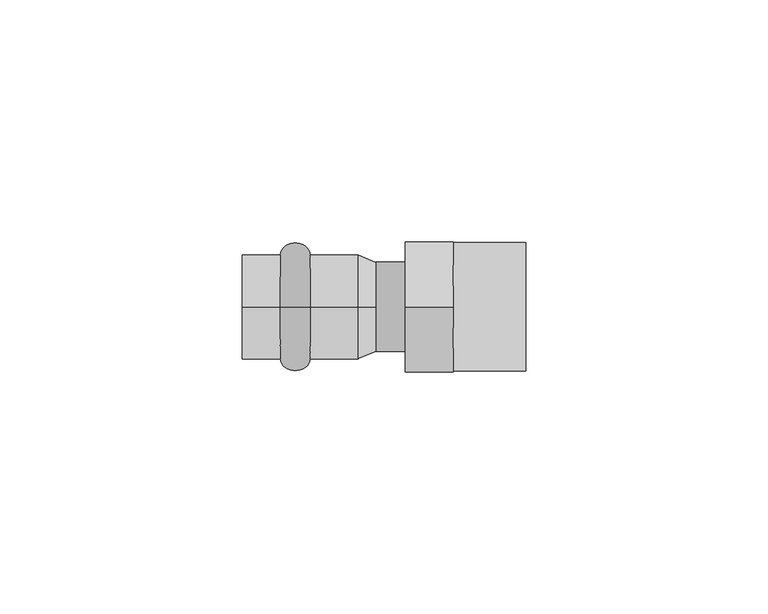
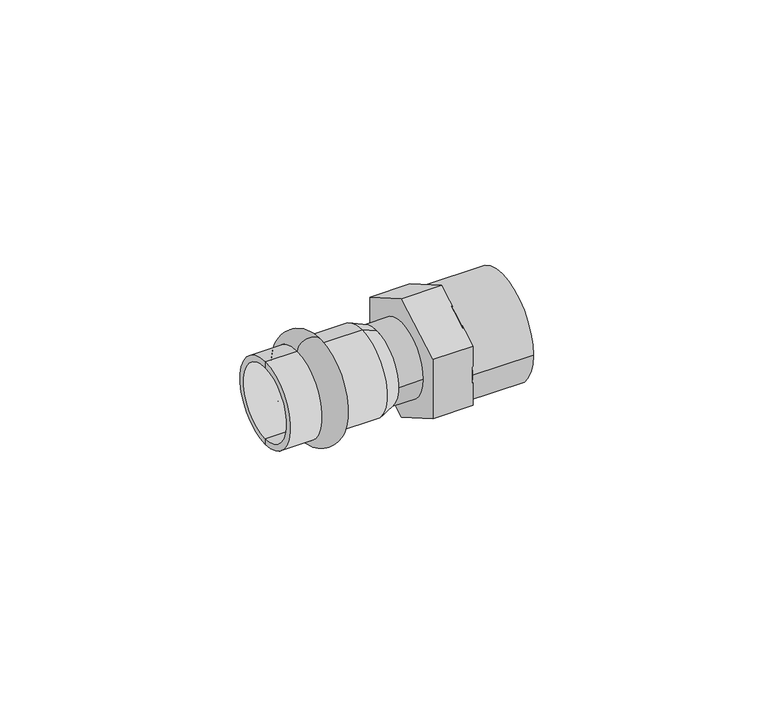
"""IFC4 building model written with IfcOpenShell, lengths in millimetres: pipe fitting geometry."""

from ifc_helpers import new_model, si_unit, point, frame, origin, origin_2d, place, context, project, spatial, polyline, circle_curve, ellipse_curve, trimmed, segment, composite_curve, outline, extrude, source, transform, mapped, element, save
from ifc_brep_helpers import plane_surface, cylinder_surface, revolved_surface, advanced_brep


def pipe_fitting_61d1deae(model_context):
    return source(origin(), model_context, "Body", "SolidModel", [
        advanced_brep(
        [(-16.1, 0.0, 10.75), (-16.1, 0.0, -10.75), (-10.0, 0.0, -10.75), (-10.0, 0.0, 10.75)],
        [
            (0, 1, circle_curve(frame((-16.1, 0.0, 0.0), z_axis=(-1.0, 0.0, 0.0), x_axis=(0.0, 0.0, -1.0)), 10.75)),
            (1, 2),
            (2, 3, circle_curve(frame((-10.0, 0.0, 0.0), z_axis=(1.0, 0.0, 0.0), x_axis=(0.0, 0.0, -1.0)), 10.75)),
            (3, 0),
            (1, 0, circle_curve(frame((-16.1, 0.0, 0.0), z_axis=(-1.0, 0.0, 0.0), x_axis=(0.0, 0.0, -1.0)), 10.75)),
            (3, 2, circle_curve(frame((-10.0, 0.0, 0.0), z_axis=(1.0, 0.0, 0.0), x_axis=(0.0, 0.0, -1.0)), 10.75)),
            (2, 1, ellipse_curve(frame((-13.05, 0.0, -10.75), z_axis=(0.0, 1.0, 0.0), x_axis=(-1.0, 0.0, 0.0)), 3.05, 2.5)),
            (0, 3, ellipse_curve(frame((-13.05, 0.0, 10.75), z_axis=(0.0, 1.0, 0.0), x_axis=(-1.0, 0.0, 0.0)), 3.05, 2.5)),
        ],
        [
            revolved_surface(polyline([(-10.0, 0.0, -10.75), (-16.1, 0.0, -10.75)]), (3.0, 0.0, 0.0), (1.0, 0.0, 0.0)),
            revolved_surface(trimmed(ellipse_curve(frame((-13.05, 0.0, -10.75), z_axis=(0.0, -1.0, 0.0), x_axis=(-1.0, 0.0, 0.0)), 3.05, 2.5), [point((-16.1, 0.0, -10.75))], [point((-10.0, 0.0, -10.75))], True, "CARTESIAN"), (3.0, 0.0, 0.0), (1.0, 0.0, 0.0)),
        ],
        [
            (0, [[1, 2, 3, 4]]),
            (0, [[5, -4, 6, -2]]),
            (1, [[-3, 7, -1, 8]]),
            (1, [[-6, -8, -5, -7]]),
        ],
    ),
        advanced_brep(
        [(3.5337785, 0.0, 9.25), (3.5337785, 0.0, -9.25), (0.0, 0.0, -10.75), (0.0, 0.0, 10.75), (-24.0, 0.0, 9.25), (-24.0, 0.0, -9.25), (-24.0, 0.0, 10.75), (-24.0, 0.0, -10.75)],
        [
            (0, 1, circle_curve(frame((3.5337785, 0.0, 0.0), z_axis=(-1.0, 0.0, 0.0), x_axis=(0.0, 0.0, -1.0)), 9.25)),
            (1, 2),
            (2, 3, circle_curve(frame((0.0, 0.0, 0.0), z_axis=(1.0, 0.0, 0.0), x_axis=(0.0, 0.0, -1.0)), 10.75)),
            (3, 0),
            (1, 0, circle_curve(frame((3.5337785, 0.0, 0.0), z_axis=(-1.0, 0.0, 0.0), x_axis=(0.0, 0.0, -1.0)), 9.25)),
            (3, 2, circle_curve(frame((0.0, 0.0, 0.0), z_axis=(1.0, 0.0, 0.0), x_axis=(0.0, 0.0, -1.0)), 10.75)),
            (4, 5, circle_curve(frame((-24.0, 0.0, 0.0), z_axis=(-1.0, 0.0, 0.0), x_axis=(0.0, 0.0, -1.0)), 9.25)),
            (5, 1),
            (0, 4),
            (5, 4, circle_curve(frame((-24.0, 0.0, 0.0), z_axis=(-1.0, 0.0, 0.0), x_axis=(0.0, 0.0, -1.0)), 9.25)),
            (6, 7, circle_curve(frame((-24.0, 0.0, 0.0), z_axis=(-1.0, 0.0, 0.0), x_axis=(0.0, 0.0, -1.0)), 10.75)),
            (7, 5),
            (4, 6),
            (7, 6, circle_curve(frame((-24.0, 0.0, 0.0), z_axis=(-1.0, 0.0, 0.0), x_axis=(0.0, 0.0, -1.0)), 10.75)),
            (2, 7),
            (6, 3),
        ],
        [
            revolved_surface(polyline([(0.0, 0.0, -10.75), (3.5337785, 0.0, -9.25)]), (3.0, 0.0, 0.0), (1.0, 0.0, 0.0)),
            revolved_surface(polyline([(3.5337785, 0.0, -9.25), (-24.0, 0.0, -9.25)]), (3.0, 0.0, 0.0), (1.0, 0.0, 0.0)),
            plane_surface(frame((-24.0, 0.0, 0.0), z_axis=(-1.0, 0.0, 0.0), x_axis=(0.0, 0.0, -1.0))),
            cylinder_surface(frame((3.0, 0.0, 0.0), z_axis=(1.0, 0.0, 0.0), x_axis=(0.0, 0.0, -1.0)), 10.75),
        ],
        [
            (0, [[1, 2, 3, 4]]),
            (0, [[5, -4, 6, -2]]),
            (1, [[7, 8, -1, 9]]),
            (1, [[10, -9, -5, -8]]),
            (2, [[11, 12, -7, 13]]),
            (2, [[14, -13, -10, -12]]),
            (3, [[-3, 15, -11, 16]]),
            (3, [[-6, -16, -14, -15]]),
        ],
    ),
        extrude(outline(composite_curve([segment(trimmed(circle_curve(origin_2d(), 13.25), [point((-13.25, 0.0))], [point((13.25, 0.0))], False, "CARTESIAN"), True, "CONTINUOUS"), segment(trimmed(circle_curve(origin_2d(), 13.25), [point((13.25, 0.0))], [point((-13.25, 0.0))], False, "CARTESIAN"), True, "CONTINUOUS")], self_intersect=False)), frame((19.5337785, 0.0, 0.0), z_axis=(1.0, 0.0, 0.0), x_axis=(0.0, 1.0, 0.0)), (0.0, 0.0, 1.0), 15.0),
        extrude(outline(composite_curve([segment(trimmed(circle_curve(origin_2d(), 9.25), [point((-9.25, 0.0))], [point((9.25, 0.0))], False, "CARTESIAN"), True, "CONTINUOUS"), segment(trimmed(circle_curve(origin_2d(), 9.25), [point((9.25, 0.0))], [point((-9.25, 0.0))], False, "CARTESIAN"), True, "CONTINUOUS")], self_intersect=False)), frame((3.5337785, 0.0, 0.0), z_axis=(1.0, 0.0, 0.0), x_axis=(0.0, 1.0, 0.0)), (0.0, 0.0, 1.0), 6.1),
        extrude(outline(polyline([(-13.4, 7.7364936), (0.0, 15.4729872), (13.4, 7.7364936), (13.4, -7.7364936), (0.0, -15.4729872), (-13.4, -7.7364936), (-13.4, 7.7364936)]), holes=[polyline([(0.0, -4.9074773), (4.25, -2.4537386), (4.25, 2.4537386), (0.0, 4.9074773), (-4.25, 2.4537386), (-4.25, -2.4537386), (0.0, -4.9074773)])]), frame((9.6337785, 0.0, 0.0), z_axis=(1.0, 0.0, 0.0), x_axis=(0.0, 1.0, 0.0)), (0.0, 0.0, 1.0), 9.9),
    ])


if __name__ == "__main__":
    model = new_model("IFC4")
    model_context = context("Model", 3, world=origin())
    ifc_project = project(units=[si_unit("LENGTHUNIT", "METRE", prefix="MILLI")], contexts=[model_context])
    site = spatial("IfcSite", under=ifc_project)
    building = spatial("IfcBuilding", under=site)
    placement = place(None, origin())
    pipe_fitting_shape = pipe_fitting_61d1deae(model_context)
    element("IfcPipeFitting", 1, ObjectType="РЕХАУ_Пресс Муфта НР : 18 x R 3/4\"", at=placement, inside=building, context=model_context, shape_type="MappedRepresentation", body=[
        mapped(pipe_fitting_shape, transform((0.0, 0.0, 0.0), x_axis=(1.0, 0.0, 0.0), y_axis=(0.0, 1.0, 0.0), z_axis=(0.0, 0.0, 1.0))),
    ])
    save(model, "model.ifc")
